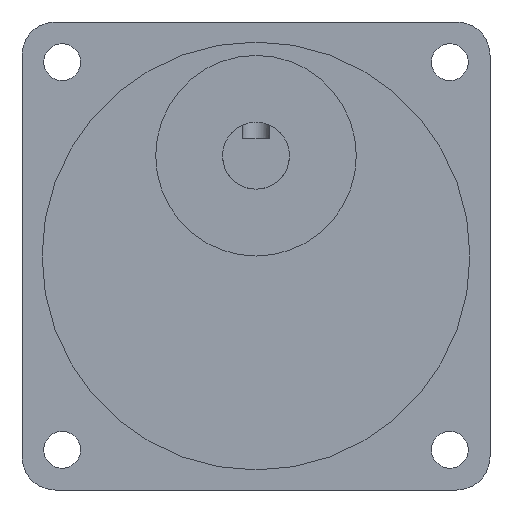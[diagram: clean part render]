
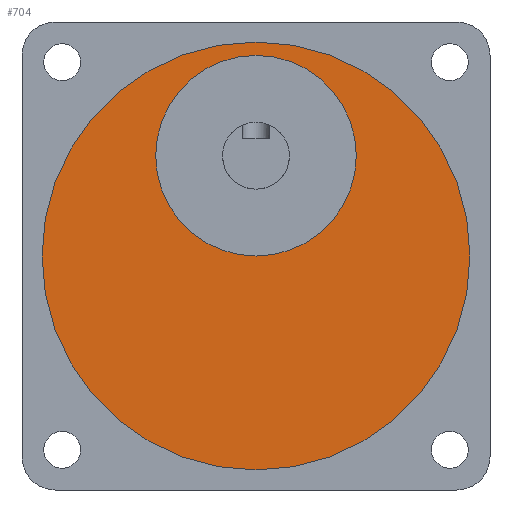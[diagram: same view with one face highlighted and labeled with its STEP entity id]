
A CAD part, front view. The second image highlights one B-rep face of the part: STEP entity #704.
In plain terms, the highlighted planar face has unit normal (0, -1, 0).
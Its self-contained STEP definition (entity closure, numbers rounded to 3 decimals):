
#17 = CARTESIAN_POINT ( 'NONE',  ( 35., -30., 35. ) ) ;
#141 = EDGE_CURVE ( 'NONE', #3635, #3022, #3449, .T. ) ;
#282 = CARTESIAN_POINT ( 'NONE',  ( 35., -30., 67. ) ) ;
#323 = EDGE_LOOP ( 'NONE', ( #1183, #3279 ) ) ;
#410 = ORIENTED_EDGE ( 'NONE', *, *, #1132, .F. ) ;
#455 = ORIENTED_EDGE ( 'NONE', *, *, #141, .F. ) ;
#684 = AXIS2_PLACEMENT_3D ( 'NONE', #3510, #1398, #1747 ) ;
#692 = VERTEX_POINT ( 'NONE', #1335 ) ;
#704 = ADVANCED_FACE ( 'NONE', ( #2500, #2238 ), #2843, .T. ) ;
#727 = AXIS2_PLACEMENT_3D ( 'NONE', #4257, #1498, #3569 ) ;
#732 = CARTESIAN_POINT ( 'NONE',  ( 35., -30., 65. ) ) ;
#758 = CIRCLE ( 'NONE', #727, 32. ) ;
#1011 = DIRECTION ( 'NONE',  ( 0., -1., 0. ) ) ;
#1035 = DIRECTION ( 'NONE',  ( 0., 0., -1. ) ) ;
#1132 = EDGE_CURVE ( 'NONE', #3022, #3635, #3768, .T. ) ;
#1183 = ORIENTED_EDGE ( 'NONE', *, *, #4137, .T. ) ;
#1335 = CARTESIAN_POINT ( 'NONE',  ( 35., -30., 3. ) ) ;
#1398 = DIRECTION ( 'NONE',  ( 0., -1., 0. ) ) ;
#1498 = DIRECTION ( 'NONE',  ( 0., -1., 0. ) ) ;
#1554 = AXIS2_PLACEMENT_3D ( 'NONE', #2667, #2327, #1995 ) ;
#1747 = DIRECTION ( 'NONE',  ( 0., 0., -1. ) ) ;
#1995 = DIRECTION ( 'NONE',  ( 0., 0., -1. ) ) ;
#2238 = FACE_OUTER_BOUND ( 'NONE', #323, .T. ) ;
#2327 = DIRECTION ( 'NONE',  ( 0., -1., 0. ) ) ;
#2377 = DIRECTION ( 'NONE',  ( 0., 0., -1. ) ) ;
#2496 = CARTESIAN_POINT ( 'NONE',  ( 35., -30., 35. ) ) ;
#2500 = FACE_BOUND ( 'NONE', #3302, .T. ) ;
#2667 = CARTESIAN_POINT ( 'NONE',  ( 35., -30., 50. ) ) ;
#2843 = PLANE ( 'NONE',  #3990 ) ;
#3022 = VERTEX_POINT ( 'NONE', #17 ) ;
#3093 = CARTESIAN_POINT ( 'NONE',  ( 35., -30., 35. ) ) ;
#3279 = ORIENTED_EDGE ( 'NONE', *, *, #3800, .T. ) ;
#3302 = EDGE_LOOP ( 'NONE', ( #455, #410 ) ) ;
#3449 = CIRCLE ( 'NONE', #684, 15. ) ;
#3461 = VERTEX_POINT ( 'NONE', #282 ) ;
#3510 = CARTESIAN_POINT ( 'NONE',  ( 35., -30., 50. ) ) ;
#3569 = DIRECTION ( 'NONE',  ( 0., 0., -1. ) ) ;
#3629 = CIRCLE ( 'NONE', #4229, 32. ) ;
#3635 = VERTEX_POINT ( 'NONE', #732 ) ;
#3768 = CIRCLE ( 'NONE', #1554, 15. ) ;
#3800 = EDGE_CURVE ( 'NONE', #3461, #692, #758, .T. ) ;
#3990 = AXIS2_PLACEMENT_3D ( 'NONE', #2496, #4242, #1035 ) ;
#4137 = EDGE_CURVE ( 'NONE', #692, #3461, #3629, .T. ) ;
#4229 = AXIS2_PLACEMENT_3D ( 'NONE', #3093, #1011, #2377 ) ;
#4242 = DIRECTION ( 'NONE',  ( 0., -1., 0. ) ) ;
#4257 = CARTESIAN_POINT ( 'NONE',  ( 35., -30., 35. ) ) ;
